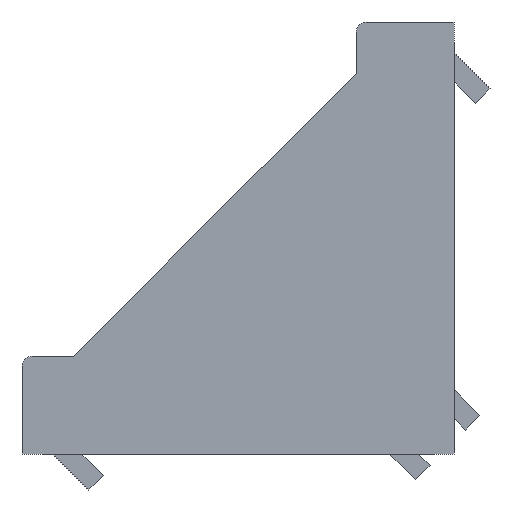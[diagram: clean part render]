
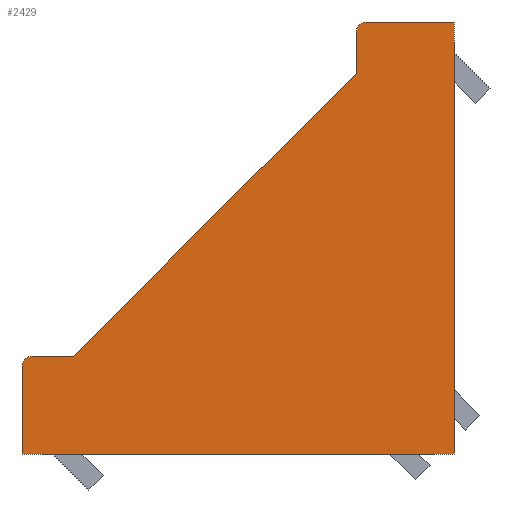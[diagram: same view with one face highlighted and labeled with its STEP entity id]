
A CAD part, left-side view. The second image highlights one B-rep face of the part: STEP entity #2429.
In plain terms, the highlighted planar face has unit normal (-1, 0, 0).
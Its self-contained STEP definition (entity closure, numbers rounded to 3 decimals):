
#4 = CARTESIAN_POINT ( 'NONE',  ( -21., 20., -12.5 ) ) ;
#11 = CARTESIAN_POINT ( 'NONE',  ( -21., -21., 21. ) ) ;
#16 = DIRECTION ( 'NONE',  ( 0., 1., 0. ) ) ;
#164 = EDGE_CURVE ( 'NONE', #1871, #912, #1501, .T. ) ;
#211 = DIRECTION ( 'NONE',  ( 0., 0., -1. ) ) ;
#252 = CARTESIAN_POINT ( 'NONE',  ( -21., 0., 0. ) ) ;
#285 = ORIENTED_EDGE ( 'NONE', *, *, #2070, .T. ) ;
#342 = CARTESIAN_POINT ( 'NONE',  ( -21., 16., -11.5 ) ) ;
#359 = VECTOR ( 'NONE', #1560, 1000. ) ;
#365 = LINE ( 'NONE', #342, #2405 ) ;
#391 = EDGE_CURVE ( 'NONE', #2108, #854, #1025, .T. ) ;
#455 = DIRECTION ( 'NONE',  ( 0., 0., -1. ) ) ;
#501 = DIRECTION ( 'NONE',  ( 0., 0., -1. ) ) ;
#512 = DIRECTION ( 'NONE',  ( -1., 0., 0. ) ) ;
#589 = EDGE_LOOP ( 'NONE', ( #2430, #285, #1854, #2121, #1146, #671, #2475, #603, #1192 ) ) ;
#603 = ORIENTED_EDGE ( 'NONE', *, *, #1526, .F. ) ;
#622 = VERTEX_POINT ( 'NONE', #2210 ) ;
#671 = ORIENTED_EDGE ( 'NONE', *, *, #1908, .T. ) ;
#687 = CIRCLE ( 'NONE', #1626, 1. ) ;
#767 = DIRECTION ( 'NONE',  ( 0., 0., -1. ) ) ;
#846 = VERTEX_POINT ( 'NONE', #2050 ) ;
#854 = VERTEX_POINT ( 'NONE', #2127 ) ;
#859 = FACE_OUTER_BOUND ( 'NONE', #589, .T. ) ;
#863 = DIRECTION ( 'NONE',  ( 0., -1., 0. ) ) ;
#870 = VECTOR ( 'NONE', #501, 1000. ) ;
#903 = EDGE_CURVE ( 'NONE', #912, #622, #924, .T. ) ;
#911 = CARTESIAN_POINT ( 'NONE',  ( -21., 16., -11.5 ) ) ;
#912 = VERTEX_POINT ( 'NONE', #2538 ) ;
#922 = LINE ( 'NONE', #2075, #870 ) ;
#924 = LINE ( 'NONE', #1343, #980 ) ;
#959 = VECTOR ( 'NONE', #863, 1000. ) ;
#980 = VECTOR ( 'NONE', #767, 1000. ) ;
#984 = CARTESIAN_POINT ( 'NONE',  ( -21., -21., -21. ) ) ;
#992 = VECTOR ( 'NONE', #1975, 1000. ) ;
#1025 = LINE ( 'NONE', #2008, #1552 ) ;
#1056 = EDGE_CURVE ( 'NONE', #1879, #2108, #365, .T. ) ;
#1146 = ORIENTED_EDGE ( 'NONE', *, *, #391, .T. ) ;
#1192 = ORIENTED_EDGE ( 'NONE', *, *, #903, .F. ) ;
#1230 = PLANE ( 'NONE',  #2355 ) ;
#1271 = EDGE_CURVE ( 'NONE', #846, #1879, #922, .T. ) ;
#1343 = CARTESIAN_POINT ( 'NONE',  ( -21., -21., -21. ) ) ;
#1396 = DIRECTION ( 'NONE',  ( -1., 0., 0. ) ) ;
#1501 = LINE ( 'NONE', #11, #959 ) ;
#1503 = CARTESIAN_POINT ( 'NONE',  ( -21., 21., -12.5 ) ) ;
#1526 = EDGE_CURVE ( 'NONE', #622, #2026, #2564, .T. ) ;
#1534 = DIRECTION ( 'NONE',  ( 0., 0.707, -0.707 ) ) ;
#1550 = CIRCLE ( 'NONE', #2472, 1. ) ;
#1552 = VECTOR ( 'NONE', #16, 1000. ) ;
#1560 = DIRECTION ( 'NONE',  ( 0., 0., 1. ) ) ;
#1585 = CARTESIAN_POINT ( 'NONE',  ( -21., -12.5, 21. ) ) ;
#1626 = AXIS2_PLACEMENT_3D ( 'NONE', #1693, #512, #1898 ) ;
#1639 = DIRECTION ( 'NONE',  ( 1., 0., 0. ) ) ;
#1693 = CARTESIAN_POINT ( 'NONE',  ( -21., -12.5, 20. ) ) ;
#1741 = VERTEX_POINT ( 'NONE', #1503 ) ;
#1854 = ORIENTED_EDGE ( 'NONE', *, *, #1271, .T. ) ;
#1871 = VERTEX_POINT ( 'NONE', #1585 ) ;
#1879 = VERTEX_POINT ( 'NONE', #1976 ) ;
#1898 = DIRECTION ( 'NONE',  ( 0., 0., -1. ) ) ;
#1908 = EDGE_CURVE ( 'NONE', #854, #1741, #1550, .T. ) ;
#1945 = LINE ( 'NONE', #2534, #359 ) ;
#1975 = DIRECTION ( 'NONE',  ( 0., 1., 0. ) ) ;
#1976 = CARTESIAN_POINT ( 'NONE',  ( -21., -11.5, 16. ) ) ;
#2008 = CARTESIAN_POINT ( 'NONE',  ( -21., 21., -11.5 ) ) ;
#2026 = VERTEX_POINT ( 'NONE', #2251 ) ;
#2050 = CARTESIAN_POINT ( 'NONE',  ( -21., -11.5, 20. ) ) ;
#2070 = EDGE_CURVE ( 'NONE', #1871, #846, #687, .T. ) ;
#2075 = CARTESIAN_POINT ( 'NONE',  ( -21., -11.5, 16. ) ) ;
#2108 = VERTEX_POINT ( 'NONE', #911 ) ;
#2121 = ORIENTED_EDGE ( 'NONE', *, *, #1056, .T. ) ;
#2127 = CARTESIAN_POINT ( 'NONE',  ( -21., 20., -11.5 ) ) ;
#2206 = EDGE_CURVE ( 'NONE', #2026, #1741, #1945, .T. ) ;
#2210 = CARTESIAN_POINT ( 'NONE',  ( -21., -21., -21. ) ) ;
#2251 = CARTESIAN_POINT ( 'NONE',  ( -21., 21., -21. ) ) ;
#2355 = AXIS2_PLACEMENT_3D ( 'NONE', #252, #1639, #455 ) ;
#2405 = VECTOR ( 'NONE', #1534, 1000. ) ;
#2429 = ADVANCED_FACE ( 'NONE', ( #859 ), #1230, .F. ) ;
#2430 = ORIENTED_EDGE ( 'NONE', *, *, #164, .F. ) ;
#2472 = AXIS2_PLACEMENT_3D ( 'NONE', #4, #1396, #211 ) ;
#2475 = ORIENTED_EDGE ( 'NONE', *, *, #2206, .F. ) ;
#2534 = CARTESIAN_POINT ( 'NONE',  ( -21., 21., -21. ) ) ;
#2538 = CARTESIAN_POINT ( 'NONE',  ( -21., -21., 21. ) ) ;
#2564 = LINE ( 'NONE', #984, #992 ) ;
